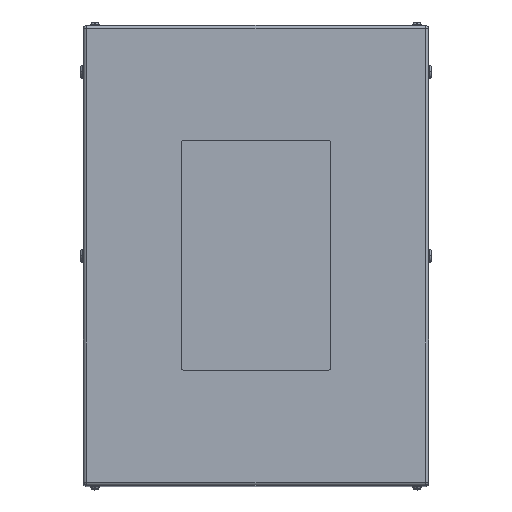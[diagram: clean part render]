
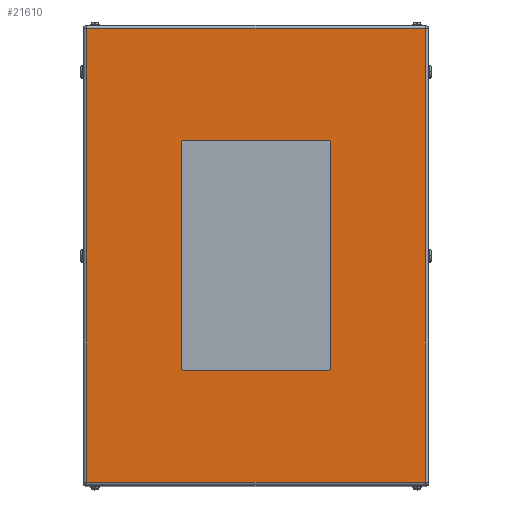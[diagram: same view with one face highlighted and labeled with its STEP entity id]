
A CAD part, top view. The second image highlights one B-rep face of the part: STEP entity #21610.
In plain terms, the highlighted planar face has unit normal (0, 0, 1).
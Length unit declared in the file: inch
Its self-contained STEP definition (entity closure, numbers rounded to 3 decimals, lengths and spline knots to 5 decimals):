
#13 = EDGE_CURVE ( 'NONE', #2123, #14335, #17363, .T. ) ;
#186 = EDGE_CURVE ( 'NONE', #1039, #21588, #2351, .T. ) ;
#699 = VERTEX_POINT ( 'NONE', #5282 ) ;
#795 = CARTESIAN_POINT ( 'NONE',  ( -14.734, 20., 33.5 ) ) ;
#1039 = VERTEX_POINT ( 'NONE', #19783 ) ;
#1239 = CARTESIAN_POINT ( 'NONE',  ( 6.5, -9.75, 33.5 ) ) ;
#1454 = CARTESIAN_POINT ( 'NONE',  ( -6.25, -10., 33.5 ) ) ;
#1572 = ORIENTED_EDGE ( 'NONE', *, *, #11209, .F. ) ;
#1689 = DIRECTION ( 'NONE',  ( -1., 0., 0. ) ) ;
#1922 = DIRECTION ( 'NONE',  ( 0., 0., 1. ) ) ;
#2002 = DIRECTION ( 'NONE',  ( 0., 0., 1. ) ) ;
#2123 = VERTEX_POINT ( 'NONE', #23035 ) ;
#2351 = CIRCLE ( 'NONE', #6136, 0.25 ) ;
#2352 = ORIENTED_EDGE ( 'NONE', *, *, #22895, .F. ) ;
#2374 = CIRCLE ( 'NONE', #3172, 0.25 ) ;
#2617 = DIRECTION ( 'NONE',  ( 0., -1., 0. ) ) ;
#2713 = FACE_OUTER_BOUND ( 'NONE', #11734, .T. ) ;
#3157 = LINE ( 'NONE', #17833, #12427 ) ;
#3172 = AXIS2_PLACEMENT_3D ( 'NONE', #16770, #12998, #4188 ) ;
#3943 = CARTESIAN_POINT ( 'NONE',  ( -6.25, -9.75, 33.5 ) ) ;
#3963 = EDGE_CURVE ( 'NONE', #21588, #17623, #18107, .T. ) ;
#4037 = ORIENTED_EDGE ( 'NONE', *, *, #17115, .T. ) ;
#4188 = DIRECTION ( 'NONE',  ( -1., 0., 0. ) ) ;
#4590 = DIRECTION ( 'NONE',  ( -1., 0., 0. ) ) ;
#4747 = LINE ( 'NONE', #795, #6148 ) ;
#5237 = VERTEX_POINT ( 'NONE', #21280 ) ;
#5282 = CARTESIAN_POINT ( 'NONE',  ( -14.734, -19.734, 33.5 ) ) ;
#5601 = LINE ( 'NONE', #16389, #5693 ) ;
#5693 = VECTOR ( 'NONE', #12752, 39.37008 ) ;
#5713 = CARTESIAN_POINT ( 'NONE',  ( -6.25, 10., 33.5 ) ) ;
#5911 = VECTOR ( 'NONE', #18403, 39.37008 ) ;
#6016 = EDGE_CURVE ( 'NONE', #16134, #699, #4747, .T. ) ;
#6136 = AXIS2_PLACEMENT_3D ( 'NONE', #10856, #2002, #16200 ) ;
#6148 = VECTOR ( 'NONE', #2617, 39.37008 ) ;
#6695 = CARTESIAN_POINT ( 'NONE',  ( -6.5, -9.75, 33.5 ) ) ;
#7279 = LINE ( 'NONE', #5713, #5911 ) ;
#7418 = VERTEX_POINT ( 'NONE', #19437 ) ;
#7831 = LINE ( 'NONE', #14813, #20023 ) ;
#7951 = EDGE_LOOP ( 'NONE', ( #22598, #2352, #15896, #15531, #1572, #19503, #22061, #22169 ) ) ;
#8373 = LINE ( 'NONE', #1454, #12842 ) ;
#8580 = DIRECTION ( 'NONE',  ( 0., 1., 0. ) ) ;
#9088 = CARTESIAN_POINT ( 'NONE',  ( 6.25, -9.75, 33.5 ) ) ;
#9336 = CARTESIAN_POINT ( 'NONE',  ( 14.734, -19.734, 33.5 ) ) ;
#9525 = VERTEX_POINT ( 'NONE', #18685 ) ;
#9987 = ORIENTED_EDGE ( 'NONE', *, *, #16039, .T. ) ;
#10128 = VECTOR ( 'NONE', #18710, 39.37008 ) ;
#10856 = CARTESIAN_POINT ( 'NONE',  ( -6.25, 9.75, 33.5 ) ) ;
#10962 = AXIS2_PLACEMENT_3D ( 'NONE', #3943, #12397, #19879 ) ;
#10995 = DIRECTION ( 'NONE',  ( 1., 0., 0. ) ) ;
#11209 = EDGE_CURVE ( 'NONE', #21003, #1039, #7279, .T. ) ;
#11548 = CARTESIAN_POINT ( 'NONE',  ( 15., 20., 33.5 ) ) ;
#11552 = DIRECTION ( 'NONE',  ( 0., 1., 0. ) ) ;
#11734 = EDGE_LOOP ( 'NONE', ( #11948, #20825, #9987, #4037 ) ) ;
#11948 = ORIENTED_EDGE ( 'NONE', *, *, #6016, .T. ) ;
#12397 = DIRECTION ( 'NONE',  ( 0., 0., 1. ) ) ;
#12427 = VECTOR ( 'NONE', #8580, 39.37008 ) ;
#12752 = DIRECTION ( 'NONE',  ( 1., 0., 0. ) ) ;
#12842 = VECTOR ( 'NONE', #17739, 39.37008 ) ;
#12860 = AXIS2_PLACEMENT_3D ( 'NONE', #9088, #1922, #10995 ) ;
#12984 = CARTESIAN_POINT ( 'NONE',  ( -14.734, 19.734, 33.5 ) ) ;
#12998 = DIRECTION ( 'NONE',  ( 0., 0., 1. ) ) ;
#13384 = CARTESIAN_POINT ( 'NONE',  ( -6.5, 9.75, 33.5 ) ) ;
#13813 = EDGE_CURVE ( 'NONE', #14335, #5237, #7831, .T. ) ;
#14238 = VERTEX_POINT ( 'NONE', #9336 ) ;
#14260 = CARTESIAN_POINT ( 'NONE',  ( 6.25, 10., 33.5 ) ) ;
#14335 = VERTEX_POINT ( 'NONE', #1239 ) ;
#14350 = VECTOR ( 'NONE', #1689, 39.37008 ) ;
#14813 = CARTESIAN_POINT ( 'NONE',  ( 6.5, 9.75, 33.5 ) ) ;
#15045 = CIRCLE ( 'NONE', #10962, 0.25 ) ;
#15531 = ORIENTED_EDGE ( 'NONE', *, *, #186, .F. ) ;
#15896 = ORIENTED_EDGE ( 'NONE', *, *, #3963, .F. ) ;
#15954 = AXIS2_PLACEMENT_3D ( 'NONE', #11548, #18717, #4590 ) ;
#16039 = EDGE_CURVE ( 'NONE', #14238, #7418, #3157, .T. ) ;
#16134 = VERTEX_POINT ( 'NONE', #12984 ) ;
#16176 = EDGE_CURVE ( 'NONE', #699, #14238, #5601, .T. ) ;
#16200 = DIRECTION ( 'NONE',  ( 1., 0., 0. ) ) ;
#16389 = CARTESIAN_POINT ( 'NONE',  ( 14.734, -19.734, 33.5 ) ) ;
#16537 = EDGE_CURVE ( 'NONE', #9525, #2123, #8373, .T. ) ;
#16770 = CARTESIAN_POINT ( 'NONE',  ( 6.25, 9.75, 33.5 ) ) ;
#16927 = CARTESIAN_POINT ( 'NONE',  ( -6.5, 9.75, 33.5 ) ) ;
#17115 = EDGE_CURVE ( 'NONE', #7418, #16134, #17769, .T. ) ;
#17363 = CIRCLE ( 'NONE', #12860, 0.25 ) ;
#17431 = EDGE_CURVE ( 'NONE', #5237, #21003, #2374, .T. ) ;
#17623 = VERTEX_POINT ( 'NONE', #6695 ) ;
#17739 = DIRECTION ( 'NONE',  ( 1., 0., 0. ) ) ;
#17769 = LINE ( 'NONE', #19295, #14350 ) ;
#17833 = CARTESIAN_POINT ( 'NONE',  ( 14.734, 20., 33.5 ) ) ;
#18107 = LINE ( 'NONE', #13384, #10128 ) ;
#18403 = DIRECTION ( 'NONE',  ( -1., 0., 0. ) ) ;
#18685 = CARTESIAN_POINT ( 'NONE',  ( -6.25, -10., 33.5 ) ) ;
#18710 = DIRECTION ( 'NONE',  ( 0., -1., 0. ) ) ;
#18717 = DIRECTION ( 'NONE',  ( 0., 0., -1. ) ) ;
#19295 = CARTESIAN_POINT ( 'NONE',  ( 15., 19.734, 33.5 ) ) ;
#19437 = CARTESIAN_POINT ( 'NONE',  ( 14.734, 19.734, 33.5 ) ) ;
#19503 = ORIENTED_EDGE ( 'NONE', *, *, #17431, .F. ) ;
#19783 = CARTESIAN_POINT ( 'NONE',  ( -6.25, 10., 33.5 ) ) ;
#19879 = DIRECTION ( 'NONE',  ( 1., 0., 0. ) ) ;
#20023 = VECTOR ( 'NONE', #11552, 39.37008 ) ;
#20435 = FACE_BOUND ( 'NONE', #7951, .T. ) ;
#20825 = ORIENTED_EDGE ( 'NONE', *, *, #16176, .T. ) ;
#21003 = VERTEX_POINT ( 'NONE', #14260 ) ;
#21280 = CARTESIAN_POINT ( 'NONE',  ( 6.5, 9.75, 33.5 ) ) ;
#21588 = VERTEX_POINT ( 'NONE', #16927 ) ;
#21610 = ADVANCED_FACE ( 'NONE', ( #20435, #2713 ), #22286, .F. ) ;
#22061 = ORIENTED_EDGE ( 'NONE', *, *, #13813, .F. ) ;
#22169 = ORIENTED_EDGE ( 'NONE', *, *, #13, .F. ) ;
#22286 = PLANE ( 'NONE',  #15954 ) ;
#22598 = ORIENTED_EDGE ( 'NONE', *, *, #16537, .F. ) ;
#22895 = EDGE_CURVE ( 'NONE', #17623, #9525, #15045, .T. ) ;
#23035 = CARTESIAN_POINT ( 'NONE',  ( 6.25, -10., 33.5 ) ) ;
